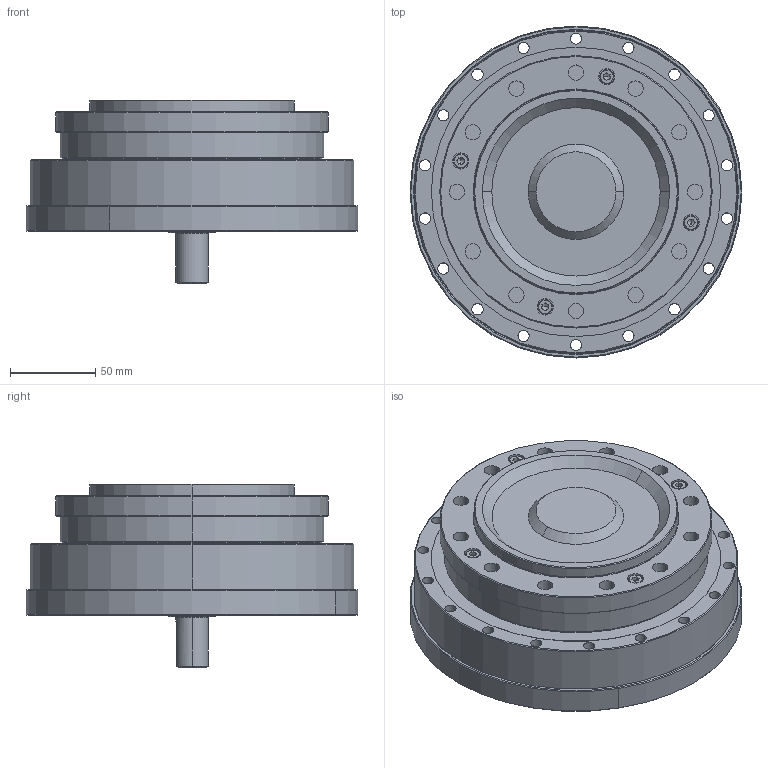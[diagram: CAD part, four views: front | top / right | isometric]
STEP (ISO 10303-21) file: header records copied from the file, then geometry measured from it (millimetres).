
FILE_DESCRIPTION (( 'STEP AP203' ), '1' );
FILE_NAME ('BHS-45-XXX-U-¢ô.STEP', '2019-01-15T06:06:06', ( 'User' ), ( 'China' ), 'SwSTEP 2.0', 'SolidWorks 2015', '' );
FILE_SCHEMA (( 'CONFIG_CONTROL_DESIGN' ));
Length unit declared in the file: millimetre
Products named in the file (1): BHS-45-XXX-U-ｌ
Bounding box: 195 x 195 x 108 mm (x, y, z)
Surface area: 129569.6 mm2 (no closed solid volume)
Topology: 0 solids, 17 shells, 317 faces, 854 edges, 546 vertices
Faces by surface type: cylinder 152, plane 94, cone 55, torus 16
Entity records: 10034 total; most frequent: DIRECTION 1908, CARTESIAN_POINT 1746, ORIENTED_EDGE 1451, EDGE_CURVE 846, AXIS2_PLACEMENT_3D 748, VERTEX_POINT 546, CIRCLE 430, VECTOR 412
